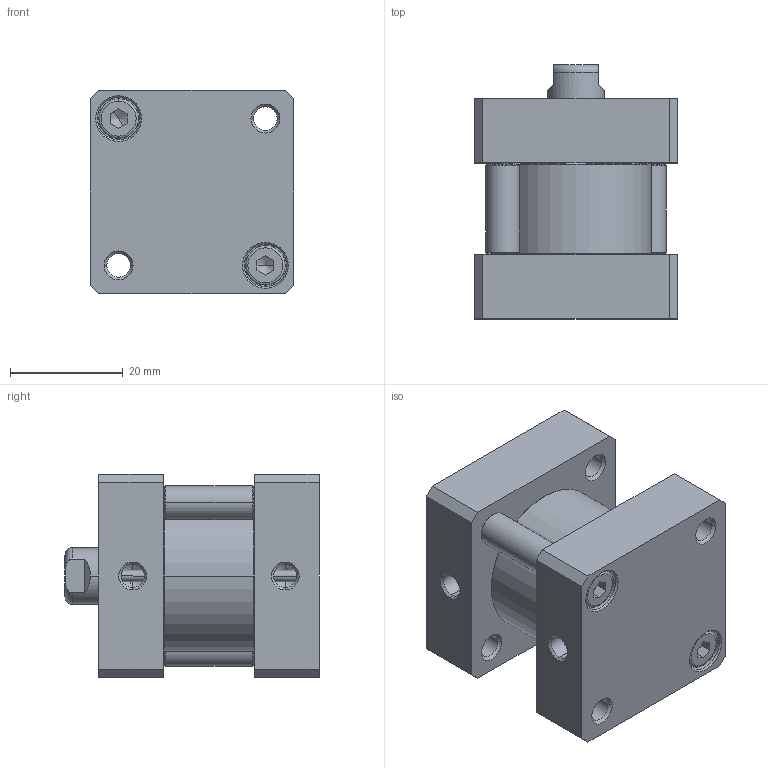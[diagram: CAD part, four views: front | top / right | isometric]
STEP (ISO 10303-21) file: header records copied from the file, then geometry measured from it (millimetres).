
FILE_DESCRIPTION(('STEP AP203'),'1');
FILE_NAME('84M25G000 - course 0mm.stp','2022-05-30T09:20:00',(' '),(' '),'Spatial InterOp 3D',' ',' ');
FILE_SCHEMA(('CONFIG_CONTROL_DESIGN'));
Length unit declared in the file: metre
Products named in the file (6): 84M25G000 - course 0mm; TP; STELO-000; TA; TIRANTI-000; CORPO-000
Assembly tree (6 placements, depth 2):
  84M25G000 - course 0mm
    TP
    STELO-000
    TA
    TIRANTI-000  x2
    CORPO-000
Bounding box: 36 x 45 x 36 mm (x, y, z)
Volume: 29942.4 mm3; surface area: 15366.4 mm2
Topology: 6 solids, 10 shells, 264 faces, 615 edges, 368 vertices
Faces by surface type: cone 104, plane 72, cylinder 70, torus 18
Entity records: 7966 total; most frequent: CARTESIAN_POINT 1853, DIRECTION 1300, ORIENTED_EDGE 1146, EDGE_CURVE 573, AXIS2_PLACEMENT_3D 518, VERTEX_POINT 351, EDGE_LOOP 288, LINE 264
